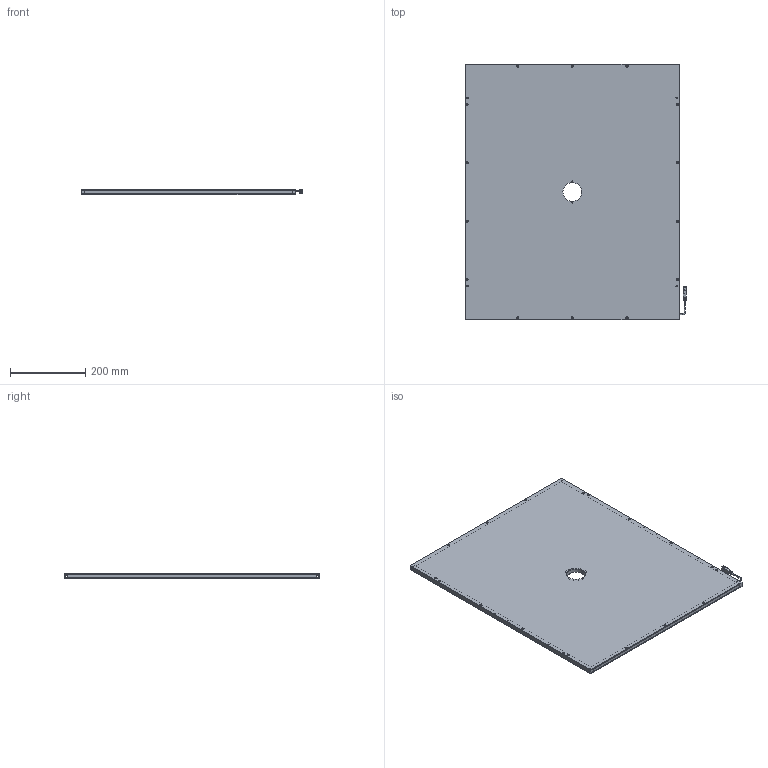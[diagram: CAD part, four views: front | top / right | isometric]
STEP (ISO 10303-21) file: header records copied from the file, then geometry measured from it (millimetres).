
FILE_DESCRIPTION (( 'STEP AP203' ), '1' );
FILE_NAME ('CRT-KFLC640530Y50-¼òÒ×3DÍ¼.STEP', '2021-11-30T05:53:20', ( 'Admin' ), ( '' ), 'SwSTEP 2.0', 'SolidWorks 2018', '' );
FILE_SCHEMA (( 'CONFIG_CONTROL_DESIGN' ));
Length unit declared in the file: millimetre
Products named in the file (1): CRT-KFLC640530Y50-潠眢3D芞
Bounding box: 589.45 x 680 x 14.85 mm (x, y, z)
Surface area: 1241537.5 mm2 (no closed solid volume)
Topology: 0 solids, 16 shells, 234 faces, 917 edges, 681 vertices
Faces by surface type: plane 99, cylinder 96, cone 34, bspline 5
Entity records: 10525 total; most frequent: CARTESIAN_POINT 2697, DIRECTION 1656, ORIENTED_EDGE 1348, EDGE_CURVE 917, VERTEX_POINT 681, AXIS2_PLACEMENT_3D 569, VECTOR 518, LINE 518
